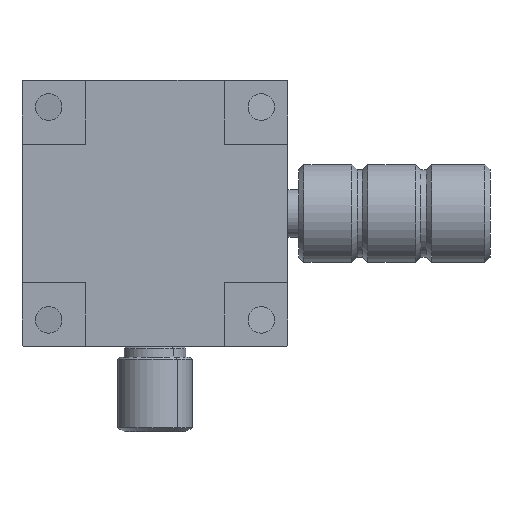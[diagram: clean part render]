
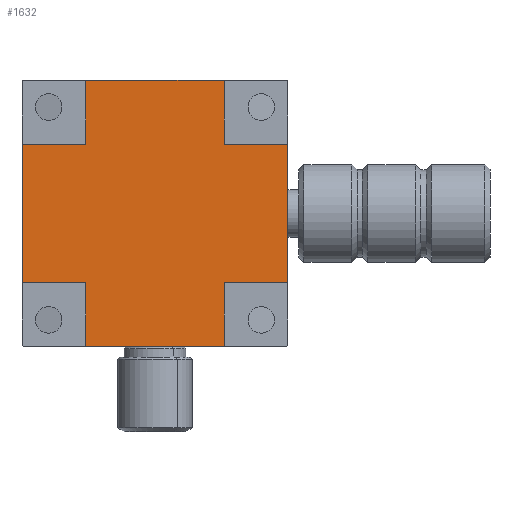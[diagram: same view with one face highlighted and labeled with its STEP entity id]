
A CAD part, front view. The second image highlights one B-rep face of the part: STEP entity #1632.
In plain terms, the highlighted planar face has unit normal (0, -1, 0).
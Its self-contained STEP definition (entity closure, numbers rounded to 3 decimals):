
#2 = VERTEX_POINT ( 'NONE', #1125 ) ;
#77 = CARTESIAN_POINT ( 'NONE',  ( 6.5, 0., 6.5 ) ) ;
#113 = ORIENTED_EDGE ( 'NONE', *, *, #4119, .F. ) ;
#141 = ORIENTED_EDGE ( 'NONE', *, *, #4543, .F. ) ;
#168 = EDGE_CURVE ( 'NONE', #5005, #3735, #3618, .T. ) ;
#197 = DIRECTION ( 'NONE',  ( 0., 1., 0. ) ) ;
#210 = LINE ( 'NONE', #1854, #4398 ) ;
#326 = AXIS2_PLACEMENT_3D ( 'NONE', #2685, #197, #1077 ) ;
#395 = ORIENTED_EDGE ( 'NONE', *, *, #4056, .F. ) ;
#491 = LINE ( 'NONE', #2978, #4160 ) ;
#649 = CARTESIAN_POINT ( 'NONE',  ( -6.5, 0., 12.5 ) ) ;
#705 = DIRECTION ( 'NONE',  ( 0., 0., 1. ) ) ;
#730 = CARTESIAN_POINT ( 'NONE',  ( 6.5, 0., 12.5 ) ) ;
#767 = VECTOR ( 'NONE', #1295, 1000. ) ;
#770 = ORIENTED_EDGE ( 'NONE', *, *, #2455, .F. ) ;
#882 = VERTEX_POINT ( 'NONE', #4320 ) ;
#981 = EDGE_CURVE ( 'NONE', #3015, #5005, #3325, .T. ) ;
#1022 = FACE_OUTER_BOUND ( 'NONE', #1079, .T. ) ;
#1077 = DIRECTION ( 'NONE',  ( 1., 0., 0. ) ) ;
#1079 = EDGE_LOOP ( 'NONE', ( #395, #1882, #113, #141, #2001, #3823, #5260, #4951, #2165, #770, #3481, #1608 ) ) ;
#1125 = CARTESIAN_POINT ( 'NONE',  ( 12.5, 0., -6.5 ) ) ;
#1169 = LINE ( 'NONE', #2452, #3451 ) ;
#1178 = EDGE_CURVE ( 'NONE', #4191, #2573, #4297, .T. ) ;
#1254 = CARTESIAN_POINT ( 'NONE',  ( -6.5, 0., -12.5 ) ) ;
#1284 = VECTOR ( 'NONE', #4622, 1000. ) ;
#1295 = DIRECTION ( 'NONE',  ( 1., 0., 0. ) ) ;
#1306 = DIRECTION ( 'NONE',  ( 0., 0., -1. ) ) ;
#1319 = VERTEX_POINT ( 'NONE', #4497 ) ;
#1348 = CARTESIAN_POINT ( 'NONE',  ( 6.5, 0., -6.5 ) ) ;
#1394 = EDGE_CURVE ( 'NONE', #3378, #882, #2667, .T. ) ;
#1608 = ORIENTED_EDGE ( 'NONE', *, *, #1178, .F. ) ;
#1632 = ADVANCED_FACE ( 'NONE', ( #1022 ), #4309, .F. ) ;
#1701 = VECTOR ( 'NONE', #3933, 1000. ) ;
#1828 = LINE ( 'NONE', #4723, #4665 ) ;
#1854 = CARTESIAN_POINT ( 'NONE',  ( 12.5, 0., -12.5 ) ) ;
#1882 = ORIENTED_EDGE ( 'NONE', *, *, #1394, .F. ) ;
#1966 = CARTESIAN_POINT ( 'NONE',  ( -12.5, 0., 6.5 ) ) ;
#2001 = ORIENTED_EDGE ( 'NONE', *, *, #3949, .F. ) ;
#2104 = DIRECTION ( 'NONE',  ( 0., 0., 1. ) ) ;
#2165 = ORIENTED_EDGE ( 'NONE', *, *, #2809, .F. ) ;
#2292 = DIRECTION ( 'NONE',  ( 1., 0., 0. ) ) ;
#2378 = VERTEX_POINT ( 'NONE', #1348 ) ;
#2398 = CARTESIAN_POINT ( 'NONE',  ( -12.5, 0., -6.5 ) ) ;
#2452 = CARTESIAN_POINT ( 'NONE',  ( 12.5, 0., -6.5 ) ) ;
#2455 = EDGE_CURVE ( 'NONE', #5343, #1319, #3638, .T. ) ;
#2460 = DIRECTION ( 'NONE',  ( 0., 0., 1. ) ) ;
#2573 = VERTEX_POINT ( 'NONE', #2398 ) ;
#2667 = LINE ( 'NONE', #3862, #1284 ) ;
#2685 = CARTESIAN_POINT ( 'NONE',  ( 0., 0., 0. ) ) ;
#2809 = EDGE_CURVE ( 'NONE', #1319, #3015, #4752, .T. ) ;
#2843 = CARTESIAN_POINT ( 'NONE',  ( -6.5, 0., 12.5 ) ) ;
#2975 = VECTOR ( 'NONE', #705, 1000. ) ;
#2978 = CARTESIAN_POINT ( 'NONE',  ( -12.5, 0., -12.5 ) ) ;
#3015 = VERTEX_POINT ( 'NONE', #2843 ) ;
#3151 = DIRECTION ( 'NONE',  ( 0., 0., -1. ) ) ;
#3230 = DIRECTION ( 'NONE',  ( -1., 0., 0. ) ) ;
#3325 = LINE ( 'NONE', #4987, #767 ) ;
#3337 = CARTESIAN_POINT ( 'NONE',  ( -6.5, 0., -6.5 ) ) ;
#3378 = VERTEX_POINT ( 'NONE', #3824 ) ;
#3451 = VECTOR ( 'NONE', #3230, 1000. ) ;
#3481 = ORIENTED_EDGE ( 'NONE', *, *, #4179, .F. ) ;
#3553 = VECTOR ( 'NONE', #4865, 1000. ) ;
#3577 = EDGE_CURVE ( 'NONE', #3735, #4678, #1828, .T. ) ;
#3618 = LINE ( 'NONE', #730, #3553 ) ;
#3638 = LINE ( 'NONE', #1966, #5244 ) ;
#3647 = LINE ( 'NONE', #1254, #5271 ) ;
#3735 = VERTEX_POINT ( 'NONE', #77 ) ;
#3769 = CARTESIAN_POINT ( 'NONE',  ( 12.5, 0., 6.5 ) ) ;
#3779 = CARTESIAN_POINT ( 'NONE',  ( 6.5, 0., -12.5 ) ) ;
#3823 = ORIENTED_EDGE ( 'NONE', *, *, #3577, .F. ) ;
#3824 = CARTESIAN_POINT ( 'NONE',  ( 6.5, 0., -12.5 ) ) ;
#3862 = CARTESIAN_POINT ( 'NONE',  ( -12.5, 0., -12.5 ) ) ;
#3933 = DIRECTION ( 'NONE',  ( -1., 0., 0. ) ) ;
#3949 = EDGE_CURVE ( 'NONE', #4678, #2, #210, .T. ) ;
#4056 = EDGE_CURVE ( 'NONE', #882, #4191, #3647, .T. ) ;
#4082 = VECTOR ( 'NONE', #1306, 1000. ) ;
#4119 = EDGE_CURVE ( 'NONE', #2378, #3378, #4258, .T. ) ;
#4160 = VECTOR ( 'NONE', #2104, 1000. ) ;
#4179 = EDGE_CURVE ( 'NONE', #2573, #5343, #491, .T. ) ;
#4191 = VERTEX_POINT ( 'NONE', #3337 ) ;
#4258 = LINE ( 'NONE', #3779, #4082 ) ;
#4297 = LINE ( 'NONE', #5174, #1701 ) ;
#4309 = PLANE ( 'NONE',  #326 ) ;
#4320 = CARTESIAN_POINT ( 'NONE',  ( -6.5, 0., -12.5 ) ) ;
#4398 = VECTOR ( 'NONE', #3151, 1000. ) ;
#4497 = CARTESIAN_POINT ( 'NONE',  ( -6.5, 0., 6.5 ) ) ;
#4526 = CARTESIAN_POINT ( 'NONE',  ( 6.5, 0., 12.5 ) ) ;
#4542 = CARTESIAN_POINT ( 'NONE',  ( -12.5, 0., 6.5 ) ) ;
#4543 = EDGE_CURVE ( 'NONE', #2, #2378, #1169, .T. ) ;
#4622 = DIRECTION ( 'NONE',  ( -1., 0., 0. ) ) ;
#4665 = VECTOR ( 'NONE', #2292, 1000. ) ;
#4678 = VERTEX_POINT ( 'NONE', #3769 ) ;
#4723 = CARTESIAN_POINT ( 'NONE',  ( 12.5, 0., 6.5 ) ) ;
#4752 = LINE ( 'NONE', #649, #2975 ) ;
#4865 = DIRECTION ( 'NONE',  ( 0., 0., -1. ) ) ;
#4951 = ORIENTED_EDGE ( 'NONE', *, *, #981, .F. ) ;
#4987 = CARTESIAN_POINT ( 'NONE',  ( -12.5, 0., 12.5 ) ) ;
#5005 = VERTEX_POINT ( 'NONE', #4526 ) ;
#5174 = CARTESIAN_POINT ( 'NONE',  ( -12.5, 0., -6.5 ) ) ;
#5244 = VECTOR ( 'NONE', #5261, 1000. ) ;
#5260 = ORIENTED_EDGE ( 'NONE', *, *, #168, .F. ) ;
#5261 = DIRECTION ( 'NONE',  ( 1., 0., 0. ) ) ;
#5271 = VECTOR ( 'NONE', #2460, 1000. ) ;
#5343 = VERTEX_POINT ( 'NONE', #4542 ) ;
